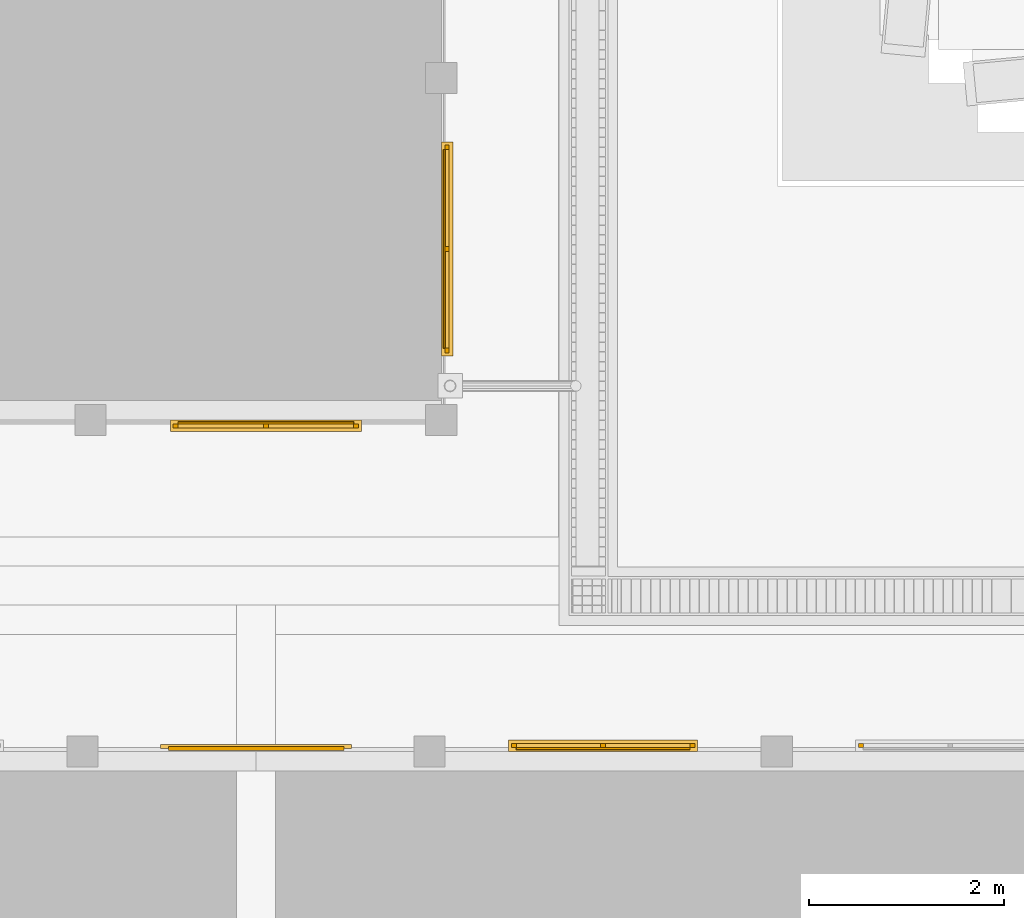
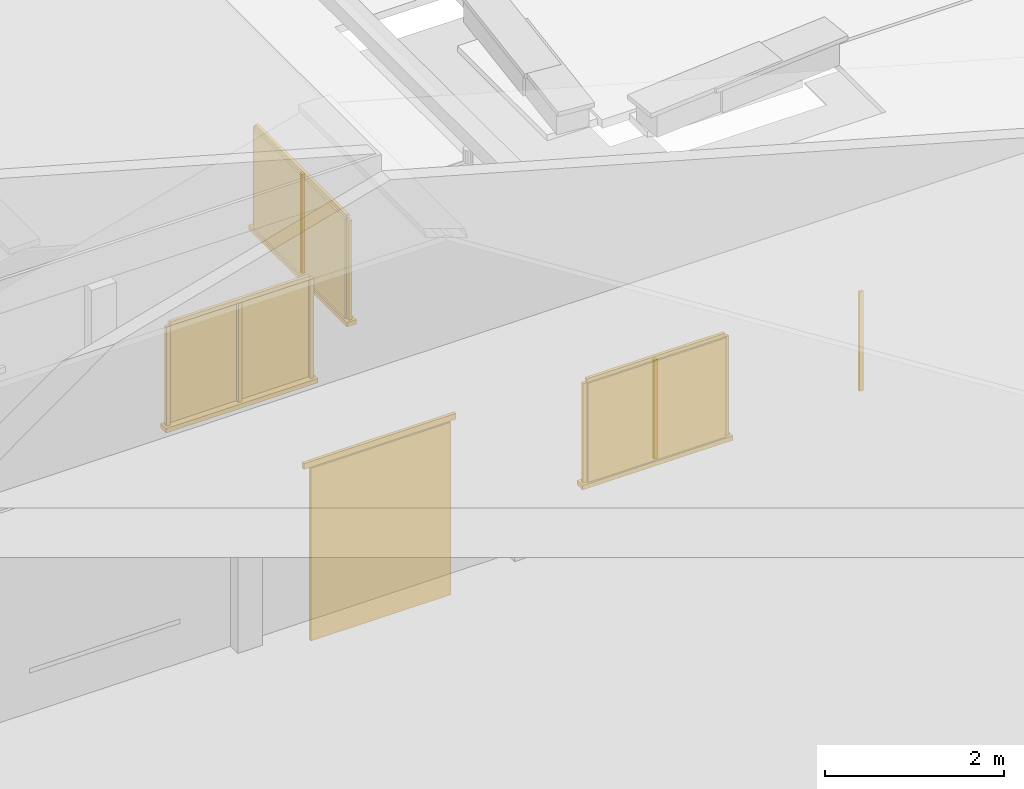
# One storey, part 41 of 166: 19 windows, 2 doors.
"""IFC2X3 building model written with IfcOpenShell, lengths in metres."""

from ifc_helpers import new_model, si_unit, origin, origin_with_axes, place, context, subcontext, project, spatial, faceted_brep, element, save


model = new_model("IFC2X3")

# Units and contexts
model_context = context("Model", 3, precision=1e-05, world=origin_with_axes())
body_context = subcontext(model_context, "Body", "Model", "MODEL_VIEW")
ifc_project = project(units=[si_unit("LENGTHUNIT", "METRE"), si_unit("AREAUNIT", "SQUARE_METRE"), si_unit("VOLUMEUNIT", "CUBIC_METRE"), si_unit("PLANEANGLEUNIT", "RADIAN")], contexts=[model_context])

# Site, building, storey
site_placement = place(None, origin_with_axes())
site = spatial("IfcSite", under=ifc_project, at=site_placement, Name="Predio Los Mangos - Morales, San Martín", CompositionType="ELEMENT")
building_placement = place(site_placement, origin())
building = spatial("IfcBuilding", under=site, at=building_placement, Name="Hogar de Refugio Temporal", CompositionType="ELEMENT")
storey_placement = place(building_placement, origin())
storey = spatial("IfcBuildingStorey", under=building, at=storey_placement, Name="NIVEL 1 (NPT +0.00)", CompositionType="ELEMENT", Elevation=0.0)

# Doors
door_1_placement = place(storey_placement, origin())
element("IfcDoor", 1, at=door_1_placement, inside=storey, Name="E-01_pp", ObjectType="Puerta", context=body_context, shape_type="Brep", body=[
    faceted_brep([(21.8, 48.71, 0.15), (21.8, 48.75, 0.15), (23.6, 48.75, 0.15), (23.6, 48.71, 0.15), (21.8, 48.71, 2.5), (23.6, 48.71, 2.5), (23.6, 48.75, 2.5), (21.8, 48.75, 2.5)], [[[0, 1, 2, 3]], [[4, 5, 6, 7]], [[0, 3, 5, 4]], [[3, 2, 6, 5]], [[2, 1, 7, 6]], [[1, 0, 4, 7]]]),
])
door_2_placement = place(storey_placement, origin())
element("IfcDoor", 2, at=door_2_placement, inside=storey, Name="E-01_pp_marco", ObjectType="Puerta", context=body_context, shape_type="Brep", body=[
    faceted_brep([(21.72, 48.73, 2.5), (21.72, 48.77, 2.5), (23.68, 48.77, 2.5), (23.68, 48.73, 2.5), (21.72, 48.73, 2.58), (23.68, 48.73, 2.58), (23.68, 48.77, 2.58), (21.72, 48.77, 2.58)], [[[0, 1, 2, 3]], [[4, 5, 6, 7]], [[0, 3, 5, 4]], [[3, 2, 6, 5]], [[2, 1, 7, 6]], [[1, 0, 4, 7]]]),
])

# Windows
window_1_placement = place(storey_placement, origin())
element("IfcWindow", 3, at=window_1_placement, inside=storey, Name="E-01_vg3_vid", ObjectType="Ventana", context=body_context, shape_type="Brep", body=[
    faceted_brep([(25.37, 48.72, 1.05), (25.37, 48.74, 1.05), (27.15, 48.74, 1.05), (27.15, 48.72, 1.05), (25.37, 48.72, 2.4), (27.15, 48.72, 2.4), (27.15, 48.74, 2.4), (25.37, 48.74, 2.4)], [[[0, 1, 2, 3]], [[4, 5, 6, 7]], [[0, 3, 5, 4]], [[3, 2, 6, 5]], [[2, 1, 7, 6]], [[1, 0, 4, 7]]]),
])
window_2_placement = place(storey_placement, origin())
element("IfcWindow", 4, at=window_2_placement, inside=storey, Name="E-01_vg3_m", ObjectType="Ventana", context=body_context, shape_type="Brep", body=[
    faceted_brep([(25.32, 48.74, 1.05), (25.32, 48.78, 1.05), (25.37, 48.78, 1.05), (25.37, 48.74, 1.05), (25.32, 48.74, 2.4), (25.37, 48.74, 2.4), (25.37, 48.78, 2.4), (25.32, 48.78, 2.4)], [[[0, 1, 2, 3]], [[4, 5, 6, 7]], [[0, 3, 5, 4]], [[3, 2, 6, 5]], [[2, 1, 7, 6]], [[1, 0, 4, 7]]]),
])
window_3_placement = place(storey_placement, origin())
element("IfcWindow", 5, at=window_3_placement, inside=storey, Name="E-01_vg3_m", ObjectType="Ventana", context=body_context, shape_type="Brep", body=[
    faceted_brep([(27.15, 48.74, 1.05), (27.15, 48.78, 1.05), (27.2, 48.78, 1.05), (27.2, 48.74, 1.05), (27.15, 48.74, 2.4), (27.2, 48.74, 2.4), (27.2, 48.78, 2.4), (27.15, 48.78, 2.4)], [[[0, 1, 2, 3]], [[4, 5, 6, 7]], [[0, 3, 5, 4]], [[3, 2, 6, 5]], [[2, 1, 7, 6]], [[1, 0, 4, 7]]]),
])
window_4_placement = place(storey_placement, origin())
element("IfcWindow", 6, at=window_4_placement, inside=storey, Name="E-01_vg3_m", ObjectType="Ventana", context=body_context, shape_type="Brep", body=[
    faceted_brep([(25.37, 48.74, 2.4), (25.37, 48.78, 2.4), (27.15, 48.78, 2.4), (27.15, 48.74, 2.4), (25.37, 48.74, 2.45), (27.15, 48.74, 2.45), (27.15, 48.78, 2.45), (25.37, 48.78, 2.45)], [[[0, 1, 2, 3]], [[4, 5, 6, 7]], [[0, 3, 5, 4]], [[3, 2, 6, 5]], [[2, 1, 7, 6]], [[1, 0, 4, 7]]]),
])
window_5_placement = place(storey_placement, origin())
element("IfcWindow", 7, at=window_5_placement, inside=storey, Name="E-01_vg3_m", ObjectType="Ventana", context=body_context, shape_type="Brep", body=[
    faceted_brep([(26.235, 48.74, 1.05), (26.235, 48.78, 1.05), (26.285, 48.78, 1.05), (26.285, 48.74, 1.05), (26.235, 48.74, 2.4), (26.285, 48.74, 2.4), (26.285, 48.78, 2.4), (26.235, 48.78, 2.4)], [[[0, 1, 2, 3]], [[4, 5, 6, 7]], [[0, 3, 5, 4]], [[3, 2, 6, 5]], [[2, 1, 7, 6]], [[1, 0, 4, 7]]]),
])
window_6_placement = place(storey_placement, origin())
element("IfcWindow", 8, at=window_6_placement, inside=storey, Name="E-01_vg3_alf", ObjectType="Ventana", context=body_context, shape_type="Brep", body=[
    faceted_brep([(25.29, 48.7, 0.99), (25.29, 48.82, 0.99), (27.23, 48.82, 0.99), (27.23, 48.7, 0.99), (25.29, 48.7, 1.05), (27.23, 48.7, 1.05), (27.23, 48.82, 1.05), (25.29, 48.82, 1.05)], [[[0, 1, 2, 3]], [[4, 5, 6, 7]], [[0, 3, 5, 4]], [[3, 2, 6, 5]], [[2, 1, 7, 6]], [[1, 0, 4, 7]]]),
])
window_7_placement = place(storey_placement, origin())
element("IfcWindow", 9, at=window_7_placement, inside=storey, Name="E-01_vg4_m", ObjectType="Ventana", context=body_context, shape_type="Brep", body=[
    faceted_brep([(28.88, 48.74, 1.05), (28.88, 48.78, 1.05), (28.93, 48.78, 1.05), (28.93, 48.74, 1.05), (28.88, 48.74, 2.4), (28.93, 48.74, 2.4), (28.93, 48.78, 2.4), (28.88, 48.78, 2.4)], [[[0, 1, 2, 3]], [[4, 5, 6, 7]], [[0, 3, 5, 4]], [[3, 2, 6, 5]], [[2, 1, 7, 6]], [[1, 0, 4, 7]]]),
])
window_8_placement = place(storey_placement, origin())
element("IfcWindow", 10, at=window_8_placement, inside=storey, Name="E-04_vg2_vid", ObjectType="Ventana", context=body_context, shape_type="Brep", body=[
    faceted_brep([(21.9, 52.06, 1.05), (21.9, 52.08, 1.05), (23.7, 52.08, 1.05), (23.7, 52.06, 1.05), (21.9, 52.06, 2.4), (23.7, 52.06, 2.4), (23.7, 52.08, 2.4), (21.9, 52.08, 2.4)], [[[0, 1, 2, 3]], [[4, 5, 6, 7]], [[0, 3, 5, 4]], [[3, 2, 6, 5]], [[2, 1, 7, 6]], [[1, 0, 4, 7]]]),
])
window_9_placement = place(storey_placement, origin())
element("IfcWindow", 11, at=window_9_placement, inside=storey, Name="E-04_vg2_m", ObjectType="Ventana", context=body_context, shape_type="Brep", body=[
    faceted_brep([(21.85, 52.02, 1.05), (21.85, 52.06, 1.05), (21.9, 52.06, 1.05), (21.9, 52.02, 1.05), (21.85, 52.02, 2.4), (21.9, 52.02, 2.4), (21.9, 52.06, 2.4), (21.85, 52.06, 2.4)], [[[0, 1, 2, 3]], [[4, 5, 6, 7]], [[0, 3, 5, 4]], [[3, 2, 6, 5]], [[2, 1, 7, 6]], [[1, 0, 4, 7]]]),
])
window_10_placement = place(storey_placement, origin())
element("IfcWindow", 12, at=window_10_placement, inside=storey, Name="E-04_vg2_m", ObjectType="Ventana", context=body_context, shape_type="Brep", body=[
    faceted_brep([(23.7, 52.02, 1.05), (23.7, 52.06, 1.05), (23.75, 52.06, 1.05), (23.75, 52.02, 1.05), (23.7, 52.02, 2.4), (23.75, 52.02, 2.4), (23.75, 52.06, 2.4), (23.7, 52.06, 2.4)], [[[0, 1, 2, 3]], [[4, 5, 6, 7]], [[0, 3, 5, 4]], [[3, 2, 6, 5]], [[2, 1, 7, 6]], [[1, 0, 4, 7]]]),
])
window_11_placement = place(storey_placement, origin())
element("IfcWindow", 13, at=window_11_placement, inside=storey, Name="E-04_vg2_m", ObjectType="Ventana", context=body_context, shape_type="Brep", body=[
    faceted_brep([(21.9, 52.02, 2.4), (21.9, 52.06, 2.4), (23.7, 52.06, 2.4), (23.7, 52.02, 2.4), (21.9, 52.02, 2.45), (23.7, 52.02, 2.45), (23.7, 52.06, 2.45), (21.9, 52.06, 2.45)], [[[0, 1, 2, 3]], [[4, 5, 6, 7]], [[0, 3, 5, 4]], [[3, 2, 6, 5]], [[2, 1, 7, 6]], [[1, 0, 4, 7]]]),
])
window_12_placement = place(storey_placement, origin())
element("IfcWindow", 14, at=window_12_placement, inside=storey, Name="E-04_vg2_m", ObjectType="Ventana", context=body_context, shape_type="Brep", body=[
    faceted_brep([(22.775, 52.02, 1.05), (22.775, 52.06, 1.05), (22.825, 52.06, 1.05), (22.825, 52.02, 1.05), (22.775, 52.02, 2.4), (22.825, 52.02, 2.4), (22.825, 52.06, 2.4), (22.775, 52.06, 2.4)], [[[0, 1, 2, 3]], [[4, 5, 6, 7]], [[0, 3, 5, 4]], [[3, 2, 6, 5]], [[2, 1, 7, 6]], [[1, 0, 4, 7]]]),
])
window_13_placement = place(storey_placement, origin())
element("IfcWindow", 15, at=window_13_placement, inside=storey, Name="E-04_vg2_alf", ObjectType="Ventana", context=body_context, shape_type="Brep", body=[
    faceted_brep([(21.82, 52.1, 0.99), (21.82, 51.98, 0.99), (23.78, 51.98, 0.99), (23.78, 52.1, 0.99), (21.82, 52.1, 1.05), (23.78, 52.1, 1.05), (23.78, 51.98, 1.05), (21.82, 51.98, 1.05)], [[[0, 1, 2, 3]], [[4, 5, 6, 7]], [[0, 3, 5, 4]], [[3, 2, 6, 5]], [[2, 1, 7, 6]], [[1, 0, 4, 7]]]),
])
window_14_placement = place(storey_placement, origin())
element("IfcWindow", 16, at=window_14_placement, inside=storey, Name="E-04_v0_vid", ObjectType="Ventana", context=body_context, shape_type="Brep", body=[
    faceted_brep([(24.62, 52.8371, 1.05), (24.62, 54.8729, 1.05), (24.64, 54.8729, 1.05), (24.64, 52.8371, 1.05), (24.62, 52.8371, 2.4), (24.64, 52.8371, 2.4), (24.64, 54.8729, 2.4), (24.62, 54.8729, 2.4)], [[[0, 1, 2, 3]], [[4, 5, 6, 7]], [[0, 3, 5, 4]], [[3, 2, 6, 5]], [[2, 1, 7, 6]], [[1, 0, 4, 7]]]),
])
window_15_placement = place(storey_placement, origin())
element("IfcWindow", 17, at=window_15_placement, inside=storey, Name="E-04_v0_m", ObjectType="Ventana", context=body_context, shape_type="Brep", body=[
    faceted_brep([(24.64, 52.7871, 1.05), (24.64, 52.8371, 1.05), (24.68, 52.8371, 1.05), (24.68, 52.7871, 1.05), (24.64, 52.7871, 2.4), (24.68, 52.7871, 2.4), (24.68, 52.8371, 2.4), (24.64, 52.8371, 2.4)], [[[0, 1, 2, 3]], [[4, 5, 6, 7]], [[0, 3, 5, 4]], [[3, 2, 6, 5]], [[2, 1, 7, 6]], [[1, 0, 4, 7]]]),
])
window_16_placement = place(storey_placement, origin())
element("IfcWindow", 18, at=window_16_placement, inside=storey, Name="E-04_v0_m", ObjectType="Ventana", context=body_context, shape_type="Brep", body=[
    faceted_brep([(24.64, 54.8729, 1.05), (24.64, 54.9229, 1.05), (24.68, 54.9229, 1.05), (24.68, 54.8729, 1.05), (24.64, 54.8729, 2.4), (24.68, 54.8729, 2.4), (24.68, 54.9229, 2.4), (24.64, 54.9229, 2.4)], [[[0, 1, 2, 3]], [[4, 5, 6, 7]], [[0, 3, 5, 4]], [[3, 2, 6, 5]], [[2, 1, 7, 6]], [[1, 0, 4, 7]]]),
])
window_17_placement = place(storey_placement, origin())
element("IfcWindow", 19, at=window_17_placement, inside=storey, Name="E-04_v0_m", ObjectType="Ventana", context=body_context, shape_type="Brep", body=[
    faceted_brep([(24.64, 52.8371, 2.4), (24.64, 54.8729, 2.4), (24.68, 54.8729, 2.4), (24.68, 52.8371, 2.4), (24.64, 52.8371, 2.45), (24.68, 52.8371, 2.45), (24.68, 54.8729, 2.45), (24.64, 54.8729, 2.45)], [[[0, 1, 2, 3]], [[4, 5, 6, 7]], [[0, 3, 5, 4]], [[3, 2, 6, 5]], [[2, 1, 7, 6]], [[1, 0, 4, 7]]]),
])
window_18_placement = place(storey_placement, origin())
element("IfcWindow", 20, at=window_18_placement, inside=storey, Name="E-04_v0_m", ObjectType="Ventana", context=body_context, shape_type="Brep", body=[
    faceted_brep([(24.64, 53.83, 1.05), (24.64, 53.88, 1.05), (24.68, 53.88, 1.05), (24.68, 53.83, 1.05), (24.64, 53.83, 2.4), (24.68, 53.83, 2.4), (24.68, 53.88, 2.4), (24.64, 53.88, 2.4)], [[[0, 1, 2, 3]], [[4, 5, 6, 7]], [[0, 3, 5, 4]], [[3, 2, 6, 5]], [[2, 1, 7, 6]], [[1, 0, 4, 7]]]),
])
window_19_placement = place(storey_placement, origin())
element("IfcWindow", 21, at=window_19_placement, inside=storey, Name="E-04_v0_alf", ObjectType="Ventana", context=body_context, shape_type="Brep", body=[
    faceted_brep([(24.6, 52.7571, 0.99), (24.6, 54.9529, 0.99), (24.72, 54.9529, 0.99), (24.72, 52.7571, 0.99), (24.6, 52.7571, 1.05), (24.72, 52.7571, 1.05), (24.72, 54.9529, 1.05), (24.6, 54.9529, 1.05)], [[[0, 1, 2, 3]], [[4, 5, 6, 7]], [[0, 3, 5, 4]], [[3, 2, 6, 5]], [[2, 1, 7, 6]], [[1, 0, 4, 7]]]),
])

save(model, "model.ifc")
